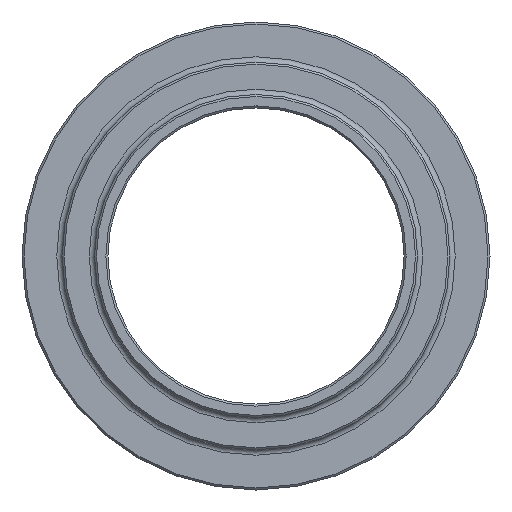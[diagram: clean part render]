
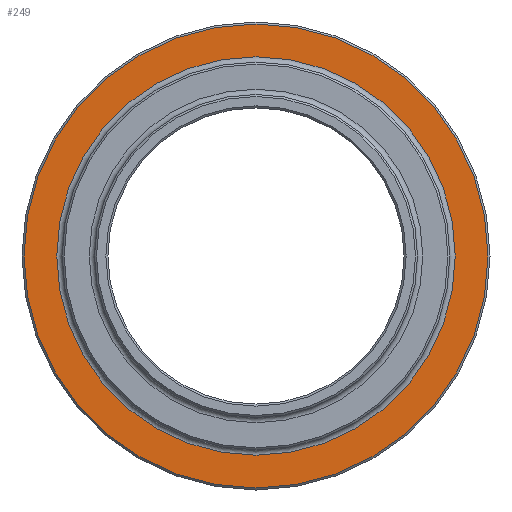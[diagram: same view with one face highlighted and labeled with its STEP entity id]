
A CAD part, left-side view. The second image highlights one B-rep face of the part: STEP entity #249.
In plain terms, the highlighted planar face has unit normal (-1, 0, 0).
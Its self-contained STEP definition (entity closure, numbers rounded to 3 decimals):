
#22=FACE_BOUND('',#76,.T.);
#26=PLANE('',#298);
#58=FACE_OUTER_BOUND('',#75,.T.);
#75=EDGE_LOOP('',(#196));
#76=EDGE_LOOP('',(#197));
#98=CIRCLE('',#293,29.8);
#102=CIRCLE('',#299,34.7);
#122=VERTEX_POINT('',#437);
#125=VERTEX_POINT('',#448);
#147=EDGE_CURVE('',#122,#122,#98,.T.);
#152=EDGE_CURVE('',#125,#125,#102,.T.);
#196=ORIENTED_EDGE('',*,*,#152,.F.);
#197=ORIENTED_EDGE('',*,*,#147,.F.);
#249=ADVANCED_FACE('',(#58,#22),#26,.T.);
#293=AXIS2_PLACEMENT_3D('',#439,#350,#351);
#298=AXIS2_PLACEMENT_3D('',#447,#361,#362);
#299=AXIS2_PLACEMENT_3D('',#449,#363,#364);
#350=DIRECTION('center_axis',(-1.,0.,0.));
#351=DIRECTION('ref_axis',(0.,-1.,0.));
#361=DIRECTION('center_axis',(-1.,0.,0.));
#362=DIRECTION('ref_axis',(0.,0.,1.));
#363=DIRECTION('center_axis',(1.,0.,0.));
#364=DIRECTION('ref_axis',(0.,-1.,0.));
#437=CARTESIAN_POINT('',(-3.5,0.,29.8));
#439=CARTESIAN_POINT('Origin',(-3.5,0.,0.));
#447=CARTESIAN_POINT('Origin',(-3.5,35.,0.));
#448=CARTESIAN_POINT('',(-3.5,34.7,0.));
#449=CARTESIAN_POINT('Origin',(-3.5,0.,0.));
